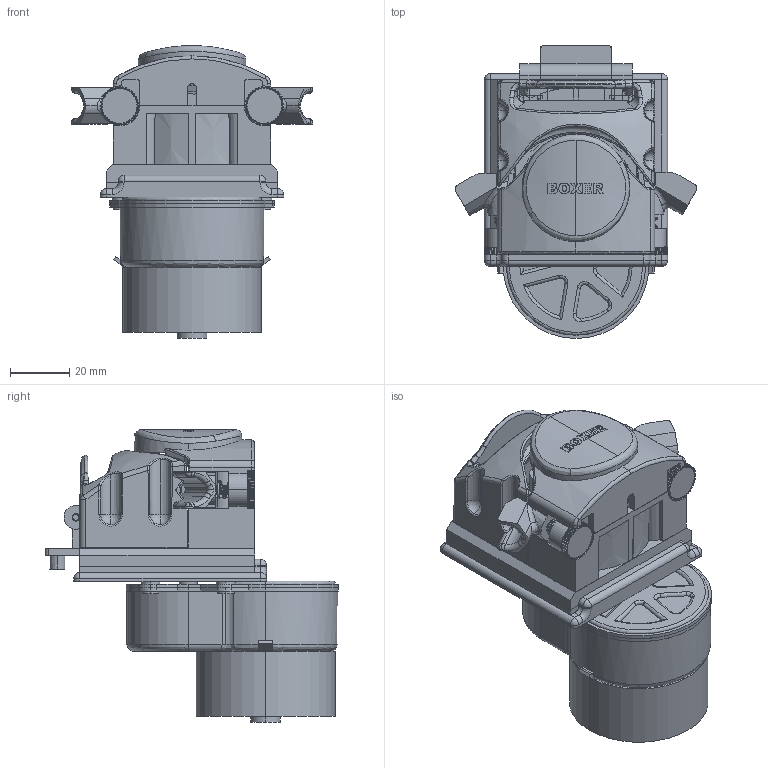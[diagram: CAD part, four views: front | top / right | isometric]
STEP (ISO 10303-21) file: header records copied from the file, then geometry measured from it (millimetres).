
FILE_DESCRIPTION (( 'STEP AP203' ), '1' );
FILE_NAME ('15QQ Sync.STEP', '2015-12-26T18:50:04', ( 'USER' ), ( '' ), 'SwSTEP 2.0', 'SolidWorks 2014', '' );
FILE_SCHEMA (( 'CONFIG_CONTROL_DESIGN' ));
Length unit declared in the file: millimetre
Products named in the file (1): 15QQ Sync
Bounding box: 81.81 x 99.09 x 99.03 mm (x, y, z)
Surface area: 54211.3 mm2 (no closed solid volume)
Topology: 0 solids, 35 shells, 1129 faces, 4654 edges, 3379 vertices
Faces by surface type: plane 363, cylinder 299, bspline 291, cone 116, torus 46, sphere 14
Entity records: 66196 total; most frequent: CARTESIAN_POINT 31672, ORIENTED_EDGE 7261, DIRECTION 6280, EDGE_CURVE 4648, VERTEX_POINT 3379, AXIS2_PLACEMENT_3D 2243, LINE 1794, VECTOR 1794
